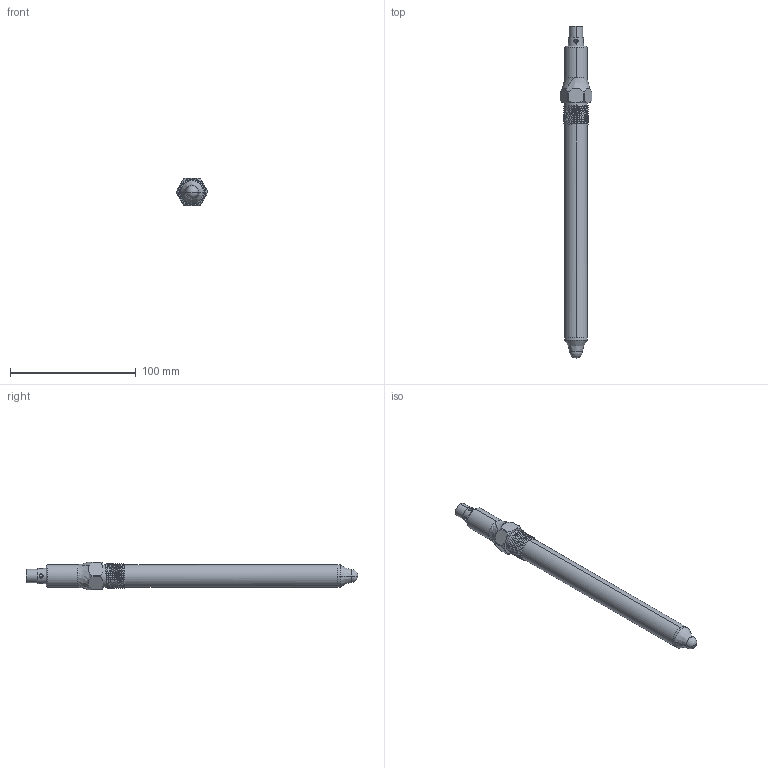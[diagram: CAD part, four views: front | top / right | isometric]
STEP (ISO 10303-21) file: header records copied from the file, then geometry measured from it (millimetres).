
FILE_DESCRIPTION (( 'STEP AP214' ), '1' );
FILE_NAME ('BLM1P3A-200.STEP', '2025-11-06T07:02:41', ( '' ), ( '' ), 'SwSTEP 2.0', 'SolidWorks 2025', '' );
FILE_SCHEMA (( 'AUTOMOTIVE_DESIGN' ));
Length unit declared in the file: millimetre
Products named in the file (1): BLM1P3A-200
Bounding box: 24.83 x 264 x 22 mm (x, y, z)
Volume: 64108.4 mm3; surface area: 16717.6 mm2
Topology: 2 solids, 2 shells, 93 faces, 250 edges, 155 vertices
Faces by surface type: cylinder 47, plane 21, sphere 10, cone 8, bspline 7
Entity records: 5221 total; most frequent: CARTESIAN_POINT 3166, ORIENTED_EDGE 470, DIRECTION 362, EDGE_CURVE 235, VERTEX_POINT 150, AXIS2_PLACEMENT_3D 144, EDGE_LOOP 105, ADVANCED_FACE 93
